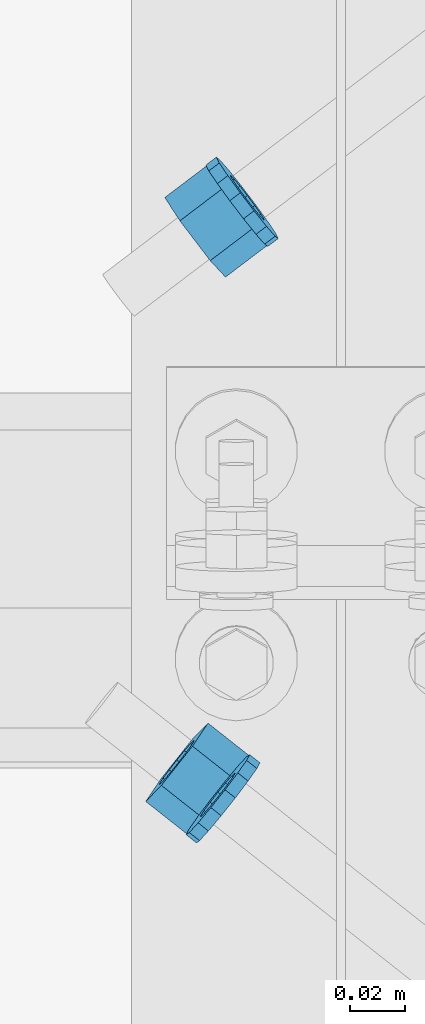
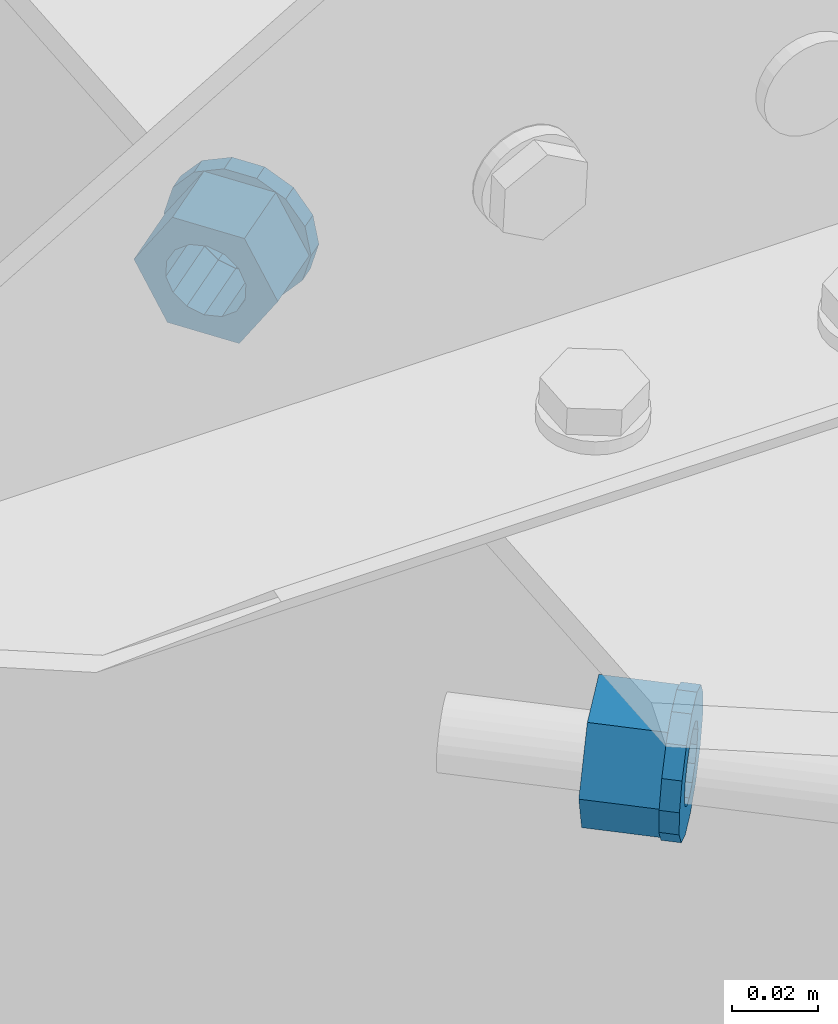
# One storey, part 32 of 185: 4 beams, 4 elements without a shape of their own.
"""IFC2X3 building model written with IfcOpenShell, lengths in millimetres."""

from ifc_helpers import new_model, si_unit, frame, origin_with_axes, place, context, subcontext, project, spatial, polyline, outline, extrude, material, type_object, element, aggregate, save


model = new_model("IFC2X3")

# Units and contexts
model_context = context("Model", 3, precision=1e-05, world=origin_with_axes())
body_context = subcontext(model_context, "Body", "Model", "MODEL_VIEW")
ifc_project = project(units=[si_unit("LENGTHUNIT", "METRE", prefix="MILLI"), si_unit("AREAUNIT", "SQUARE_METRE"), si_unit("VOLUMEUNIT", "CUBIC_METRE"), si_unit("MASSUNIT", "GRAM", prefix="KILO"), si_unit("TIMEUNIT", "SECOND"), si_unit("PLANEANGLEUNIT", "RADIAN"), si_unit("SOLIDANGLEUNIT", "STERADIAN"), si_unit("THERMODYNAMICTEMPERATUREUNIT", "DEGREE_CELSIUS"), si_unit("LUMINOUSINTENSITYUNIT", "LUMEN")], contexts=[model_context])

# Site, building, storey
site_placement = place(None, origin_with_axes())
site = spatial("IfcSite", under=ifc_project, at=site_placement, Name="Undefined", CompositionType="ELEMENT")
building_placement = place(site_placement, origin_with_axes())
building = spatial("IfcBuilding", under=site, at=building_placement, Name="Undefined", CompositionType="ELEMENT")
storey_placement = place(building_placement, origin_with_axes())
storey = spatial("IfcBuildingStorey", under=building, at=storey_placement, Name="Undefined", CompositionType="ELEMENT", Elevation=0.0)

# Assembly, beam
assembly_1_placement = place(storey_placement, origin_with_axes())
assembly_1 = element("IfcElementAssembly", 1, at=assembly_1_placement, inside=storey, Name="Steel Assembly", AssemblyPlace="NOTDEFINED", PredefinedType="RIGID_FRAME")
ifc_material = material(Name="STEEL/55")
beam_type_1 = type_object("IfcBeamType", Name="3/4_HEAVY_HEX_NUT", PredefinedType="NOTDEFINED")
beam_1_placement = place(assembly_1_placement, frame((30061.0827766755, 6730.74368514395, 6394.03713575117), z_axis=(-0.00268046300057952, -0.0795299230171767, 0.996828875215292), x_axis=(-0.796162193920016, -0.602993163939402, -0.0502494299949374)))
beam_1 = element("IfcBeam", 2, at=beam_1_placement, type_object=beam_type_1, material=ifc_material, Name="3/4 H HEX NUT A563", ObjectType="3/4_HEAVY_HEX_NUT", context=body_context, shape_type="SweptSolid", body=[
    extrude(outline(polyline([(9.13000011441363, -15.810000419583), (-9.13000011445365, -15.810000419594), (-18.2600002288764, 1.54614099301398e-11), (-9.13000011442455, 15.8100004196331), (9.13000011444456, 15.8100004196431), (18.2600002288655, 3.36513039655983e-11), (9.13000011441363, -15.810000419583)]), holes=[polyline([(-8.06850066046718, 6.43441456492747), (-10.061255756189, 2.29641597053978), (-10.0612557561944, -2.29641597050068), (-8.06850066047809, -6.43441456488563), (-4.47768005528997, -9.29799844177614), (-1.09139364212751e-11, -10.3199996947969), (4.47768005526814, -9.29799844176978), (8.0685006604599, -6.43441456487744), (10.0612557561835, -2.29641597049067), (10.0612557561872, 2.2964159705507), (8.06850066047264, 6.43441456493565), (4.47768005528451, 9.29799844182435), (7.27595761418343e-12, 10.319999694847), (-4.47768005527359, 9.2979984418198), (-8.06850066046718, 6.43441456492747)])]), frame((19.0500000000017, 0.0, 2.58175642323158e-19), z_axis=(-1.0, 0.0, 0.0), x_axis=(0.0, -1.0, 0.0)), (0.0, 0.0, 1.0), 19.1),
])
aggregate(assembly_1, [beam_1])

assembly_2_placement = place(storey_placement, origin_with_axes())
assembly_2 = element("IfcElementAssembly", 3, at=assembly_2_placement, inside=storey, Name="Steel Assembly", AssemblyPlace="NOTDEFINED", PredefinedType="RIGID_FRAME")
beam_2_placement = place(assembly_2_placement, frame((30054.1934767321, 6516.37912306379, 6376.17342597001), z_axis=(-0.00212448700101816, 0.0803709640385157, -0.996762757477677), x_axis=(-0.784016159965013, 0.618596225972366, 0.0515496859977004)))
beam_2 = element("IfcBeam", 4, at=beam_2_placement, type_object=beam_type_1, material=ifc_material, Name="3/4 H HEX NUT A563", ObjectType="3/4_HEAVY_HEX_NUT", context=body_context, shape_type="SweptSolid", body=[
    extrude(outline(polyline([(9.13000011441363, -15.810000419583), (-9.13000011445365, -15.810000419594), (-18.2600002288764, 1.54614099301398e-11), (-9.13000011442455, 15.8100004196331), (9.13000011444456, 15.8100004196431), (18.2600002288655, 3.36513039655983e-11), (9.13000011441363, -15.810000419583)]), holes=[polyline([(-8.06850066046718, 6.43441456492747), (-10.061255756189, 2.29641597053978), (-10.0612557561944, -2.29641597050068), (-8.06850066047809, -6.43441456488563), (-4.47768005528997, -9.29799844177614), (-1.09139364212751e-11, -10.3199996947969), (4.47768005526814, -9.29799844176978), (8.0685006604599, -6.43441456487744), (10.0612557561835, -2.29641597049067), (10.0612557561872, 2.2964159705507), (8.06850066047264, 6.43441456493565), (4.47768005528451, 9.29799844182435), (7.27595761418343e-12, 10.319999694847), (-4.47768005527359, 9.2979984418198), (-8.06850066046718, 6.43441456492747)])]), frame((19.0500000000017, 0.0, 2.58175642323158e-19), z_axis=(-1.0, 0.0, 0.0), x_axis=(0.0, -1.0, 0.0)), (0.0, 0.0, 1.0), 19.0),
])
aggregate(assembly_2, [beam_2])

assembly_3_placement = place(storey_placement, origin_with_axes())
assembly_3 = element("IfcElementAssembly", 5, at=assembly_3_placement, inside=storey, Name="Steel Assembly", AssemblyPlace="NOTDEFINED", PredefinedType="RIGID_FRAME")
beam_type_2 = type_object("IfcBeamType", Name="3/4_WASHER", PredefinedType="NOTDEFINED")
beam_3_placement = place(assembly_3_placement, frame((30064.874499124, 6733.61544008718, 6394.27644866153), z_axis=(-0.00268046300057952, -0.0795299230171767, 0.996828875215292), x_axis=(-0.796162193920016, -0.602993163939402, -0.0502494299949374)))
beam_3 = element("IfcBeam", 6, at=beam_3_placement, type_object=beam_type_2, material=ifc_material, Name="3/4 WASHER F844", ObjectType="3/4_WASHER", context=body_context, shape_type="SweptSolid", body=[
    extrude(outline(polyline([(-11.6280845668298, -14.5811568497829), (-16.8030690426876, -8.09193156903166), (-18.649999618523, -4.54747350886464e-12), (-16.8030690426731, 8.09193156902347), (-11.6280845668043, 14.5811568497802), (-4.15001533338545, 18.1824051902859), (4.15001533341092, 18.1824051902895), (11.628084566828, 14.5811568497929), (16.8030690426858, 8.09193156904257), (18.6499996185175, 1.45519152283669e-11), (16.8030690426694, -8.09193156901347), (11.6280845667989, -14.5811568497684), (4.15001533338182, -18.182405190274), (-4.15001533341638, -18.1824051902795), (-11.6280845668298, -14.5811568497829)]), holes=[polyline([(-8.06850066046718, 6.43441456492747), (-10.061255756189, 2.29641597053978), (-10.0612557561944, -2.29641597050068), (-8.06850066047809, -6.43441456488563), (-4.47768005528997, -9.29799844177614), (-1.09139364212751e-11, -10.3199996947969), (4.47768005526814, -9.29799844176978), (8.0685006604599, -6.43441456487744), (10.0612557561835, -2.29641597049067), (10.0612557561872, 2.2964159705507), (8.06850066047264, 6.43441456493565), (4.47768005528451, 9.29799844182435), (7.27595761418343e-12, 10.319999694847), (-4.47768005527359, 9.2979984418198), (-8.06850066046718, 6.43441456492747)])]), frame((4.76250000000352, 2.6437185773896e-16, 5.6843418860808e-14), z_axis=(-1.0, 0.0, 0.0), x_axis=(0.0, -1.0, 0.0)), (0.0, 0.0, 1.0), 4.8),
])
aggregate(assembly_3, [beam_3])

assembly_4_placement = place(storey_placement, origin_with_axes())
assembly_4 = element("IfcElementAssembly", 7, at=assembly_4_placement, inside=storey, Name="Steel Assembly", AssemblyPlace="NOTDEFINED", PredefinedType="RIGID_FRAME")
beam_4_placement = place(assembly_4_placement, frame((30057.927353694, 6513.43305853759, 6375.92792059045), z_axis=(-0.00212448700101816, 0.0803709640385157, -0.996762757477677), x_axis=(-0.784016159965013, 0.618596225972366, 0.0515496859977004)))
beam_4 = element("IfcBeam", 8, at=beam_4_placement, type_object=beam_type_2, material=ifc_material, Name="3/4 WASHER F844", ObjectType="3/4_WASHER", context=body_context, shape_type="SweptSolid", body=[
    extrude(outline(polyline([(-11.6280845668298, -14.5811568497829), (-16.8030690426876, -8.09193156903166), (-18.649999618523, -4.54747350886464e-12), (-16.8030690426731, 8.09193156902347), (-11.6280845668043, 14.5811568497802), (-4.15001533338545, 18.1824051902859), (4.15001533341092, 18.1824051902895), (11.628084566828, 14.5811568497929), (16.8030690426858, 8.09193156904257), (18.6499996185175, 1.45519152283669e-11), (16.8030690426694, -8.09193156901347), (11.6280845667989, -14.5811568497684), (4.15001533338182, -18.182405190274), (-4.15001533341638, -18.1824051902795), (-11.6280845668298, -14.5811568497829)]), holes=[polyline([(-8.06850066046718, 6.43441456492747), (-10.061255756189, 2.29641597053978), (-10.0612557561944, -2.29641597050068), (-8.06850066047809, -6.43441456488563), (-4.47768005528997, -9.29799844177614), (-1.09139364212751e-11, -10.3199996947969), (4.47768005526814, -9.29799844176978), (8.0685006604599, -6.43441456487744), (10.0612557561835, -2.29641597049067), (10.0612557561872, 2.2964159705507), (8.06850066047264, 6.43441456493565), (4.47768005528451, 9.29799844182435), (7.27595761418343e-12, 10.319999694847), (-4.47768005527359, 9.2979984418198), (-8.06850066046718, 6.43441456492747)])]), frame((4.76250000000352, 2.6437185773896e-16, 5.6843418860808e-14), z_axis=(-1.0, 0.0, 0.0), x_axis=(0.0, -1.0, 0.0)), (0.0, 0.0, 1.0), 4.8),
])
aggregate(assembly_4, [beam_4])

save(model, "model.ifc")
